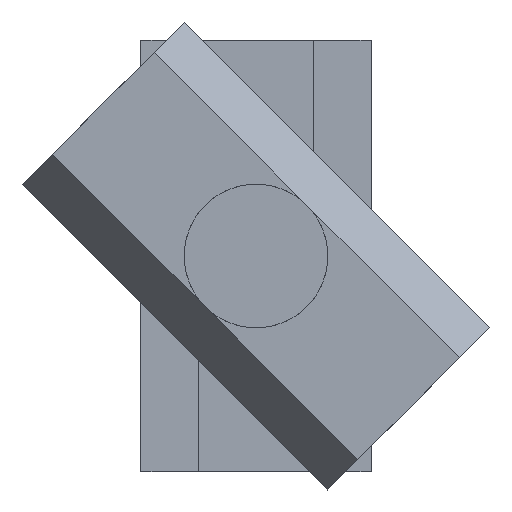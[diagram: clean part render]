
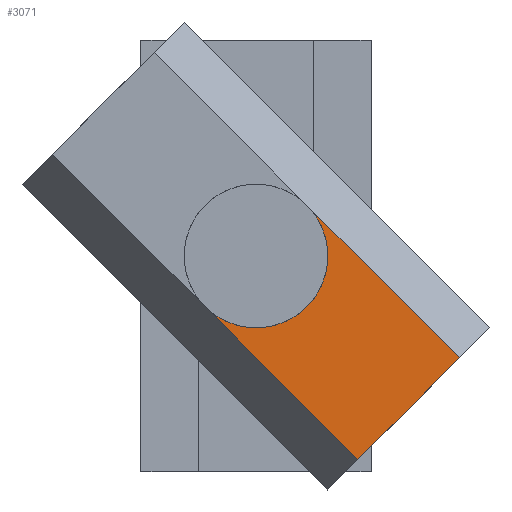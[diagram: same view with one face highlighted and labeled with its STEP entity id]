
A CAD part, left-side view. The second image highlights one B-rep face of the part: STEP entity #3071.
In plain terms, the highlighted planar face has unit normal (-1, 0, 0) as drawn and (0, -1, 0) by its records, which use the part's own axes.
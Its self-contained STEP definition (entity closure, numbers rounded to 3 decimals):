
#37 = CARTESIAN_POINT ( 'NONE',  ( -5., -5., -15. ) ) ;
#68 = LINE ( 'NONE', #1446, #4634 ) ;
#96 = AXIS2_PLACEMENT_3D ( 'NONE', #879, #3538, #1270 ) ;
#103 = ORIENTED_EDGE ( 'NONE', *, *, #2243, .F. ) ;
#199 = FACE_OUTER_BOUND ( 'NONE', #483, .T. ) ;
#209 = CARTESIAN_POINT ( 'NONE',  ( 0., -5., -5. ) ) ;
#314 = DIRECTION ( 'NONE',  ( 0., -1., 0. ) ) ;
#363 = CARTESIAN_POINT ( 'NONE',  ( 5., -5., -15. ) ) ;
#483 = EDGE_LOOP ( 'NONE', ( #103, #3942, #3121, #2262, #2245 ) ) ;
#505 = VERTEX_POINT ( 'NONE', #209 ) ;
#687 = VECTOR ( 'NONE', #2958, 1000. ) ;
#780 = CARTESIAN_POINT ( 'NONE',  ( -5., -5., -15. ) ) ;
#846 = CARTESIAN_POINT ( 'NONE',  ( 5., -5., 0. ) ) ;
#879 = CARTESIAN_POINT ( 'NONE',  ( 0., -5., 0. ) ) ;
#1056 = LINE ( 'NONE', #37, #2343 ) ;
#1270 = DIRECTION ( 'NONE',  ( 0., 0., 1. ) ) ;
#1362 = VERTEX_POINT ( 'NONE', #3594 ) ;
#1446 = CARTESIAN_POINT ( 'NONE',  ( 0., -5., -15. ) ) ;
#1491 = DIRECTION ( 'NONE',  ( 0., 1., 0. ) ) ;
#1811 = DIRECTION ( 'NONE',  ( 1., 0., 0. ) ) ;
#2243 = EDGE_CURVE ( 'NONE', #3507, #4359, #2292, .T. ) ;
#2245 = ORIENTED_EDGE ( 'NONE', *, *, #2941, .T. ) ;
#2262 = ORIENTED_EDGE ( 'NONE', *, *, #2727, .T. ) ;
#2292 = LINE ( 'NONE', #4900, #687 ) ;
#2343 = VECTOR ( 'NONE', #3900, 1000. ) ;
#2599 = AXIS2_PLACEMENT_3D ( 'NONE', #780, #314, #3472 ) ;
#2727 = EDGE_CURVE ( 'NONE', #1362, #4908, #1056, .T. ) ;
#2929 = CIRCLE ( 'NONE', #4369, 5. ) ;
#2941 = EDGE_CURVE ( 'NONE', #4908, #4359, #68, .T. ) ;
#2958 = DIRECTION ( 'NONE',  ( 0., 0., -1. ) ) ;
#3071 = ADVANCED_FACE ( 'NONE', ( #199 ), #3677, .T. ) ;
#3121 = ORIENTED_EDGE ( 'NONE', *, *, #4292, .T. ) ;
#3472 = DIRECTION ( 'NONE',  ( 0., 0., -1. ) ) ;
#3507 = VERTEX_POINT ( 'NONE', #846 ) ;
#3538 = DIRECTION ( 'NONE',  ( 0., 1., 0. ) ) ;
#3594 = CARTESIAN_POINT ( 'NONE',  ( -5., -5., 0. ) ) ;
#3677 = PLANE ( 'NONE',  #2599 ) ;
#3781 = CARTESIAN_POINT ( 'NONE',  ( 0., -5., 0. ) ) ;
#3900 = DIRECTION ( 'NONE',  ( 0., 0., -1. ) ) ;
#3942 = ORIENTED_EDGE ( 'NONE', *, *, #4565, .T. ) ;
#4168 = DIRECTION ( 'NONE',  ( 0., 0., 1. ) ) ;
#4235 = CIRCLE ( 'NONE', #96, 5. ) ;
#4292 = EDGE_CURVE ( 'NONE', #505, #1362, #2929, .T. ) ;
#4359 = VERTEX_POINT ( 'NONE', #363 ) ;
#4369 = AXIS2_PLACEMENT_3D ( 'NONE', #3781, #1491, #4168 ) ;
#4565 = EDGE_CURVE ( 'NONE', #3507, #505, #4235, .T. ) ;
#4634 = VECTOR ( 'NONE', #1811, 1000. ) ;
#4900 = CARTESIAN_POINT ( 'NONE',  ( 5., -5., -15. ) ) ;
#4908 = VERTEX_POINT ( 'NONE', #4922 ) ;
#4922 = CARTESIAN_POINT ( 'NONE',  ( -5., -5., -15. ) ) ;
